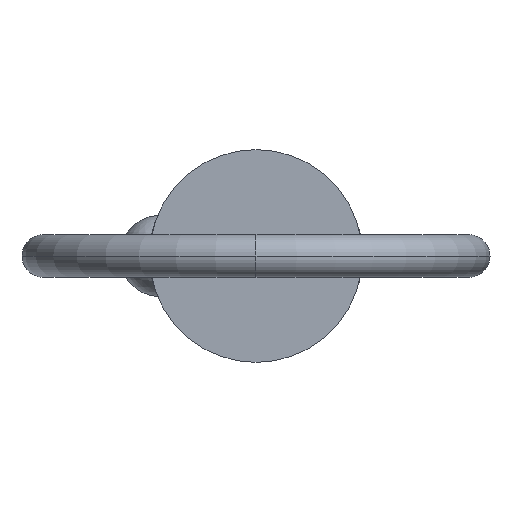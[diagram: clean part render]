
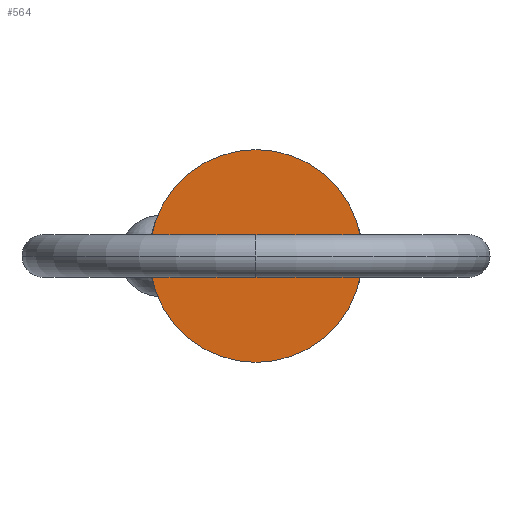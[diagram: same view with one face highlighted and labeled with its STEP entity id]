
A CAD part, left-side view. The second image highlights one B-rep face of the part: STEP entity #564.
In plain terms, the highlighted planar face has unit normal (-1, 0, 0).
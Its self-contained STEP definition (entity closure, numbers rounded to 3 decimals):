
#57 = CIRCLE ( 'NONE', #67, 9.525 ) ;
#67 = AXIS2_PLACEMENT_3D ( 'NONE', #555, #881, #260 ) ;
#213 = EDGE_CURVE ( 'NONE', #824, #902, #57, .T. ) ;
#260 = DIRECTION ( 'NONE',  ( 0., 0., -1. ) ) ;
#347 = CARTESIAN_POINT ( 'NONE',  ( 0., 0., 9.525 ) ) ;
#369 = EDGE_CURVE ( 'NONE', #902, #824, #738, .T. ) ;
#426 = DIRECTION ( 'NONE',  ( 0., 0., -1. ) ) ;
#477 = DIRECTION ( 'NONE',  ( -1., 0., 0. ) ) ;
#494 = CARTESIAN_POINT ( 'NONE',  ( 0., 0., -9.525 ) ) ;
#495 = CARTESIAN_POINT ( 'NONE',  ( 0., 0., 0. ) ) ;
#537 = FACE_OUTER_BOUND ( 'NONE', #859, .T. ) ;
#539 = ORIENTED_EDGE ( 'NONE', *, *, #369, .F. ) ;
#555 = CARTESIAN_POINT ( 'NONE',  ( 0., 0., 0. ) ) ;
#564 = ADVANCED_FACE ( 'NONE', ( #537 ), #741, .T. ) ;
#606 = CARTESIAN_POINT ( 'NONE',  ( 0., 0., 0. ) ) ;
#692 = ORIENTED_EDGE ( 'NONE', *, *, #213, .F. ) ;
#709 = AXIS2_PLACEMENT_3D ( 'NONE', #495, #778, #426 ) ;
#738 = CIRCLE ( 'NONE', #709, 9.525 ) ;
#741 = PLANE ( 'NONE',  #811 ) ;
#778 = DIRECTION ( 'NONE',  ( 1., 0., 0. ) ) ;
#811 = AXIS2_PLACEMENT_3D ( 'NONE', #606, #477, #879 ) ;
#824 = VERTEX_POINT ( 'NONE', #347 ) ;
#859 = EDGE_LOOP ( 'NONE', ( #539, #692 ) ) ;
#879 = DIRECTION ( 'NONE',  ( 0., 0., 1. ) ) ;
#881 = DIRECTION ( 'NONE',  ( 1., 0., 0. ) ) ;
#902 = VERTEX_POINT ( 'NONE', #494 ) ;
